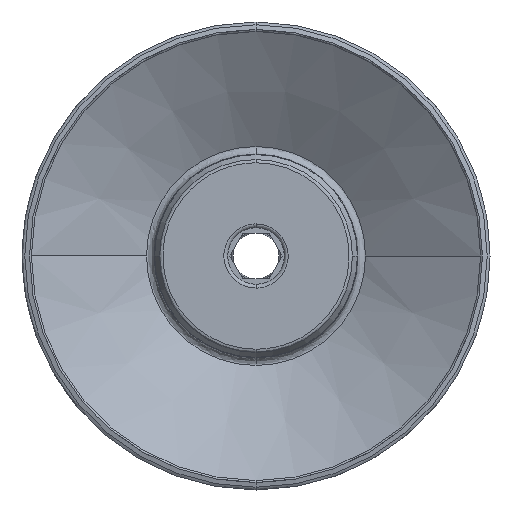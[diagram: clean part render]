
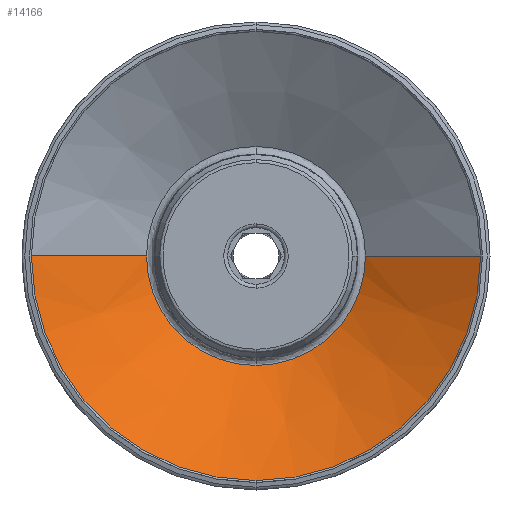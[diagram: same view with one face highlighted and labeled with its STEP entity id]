
A CAD part, front view. The second image highlights one B-rep face of the part: STEP entity #14166.
In plain terms, the highlighted conical face has half-angle 58.6 degrees and reference radius 29.75 mm.
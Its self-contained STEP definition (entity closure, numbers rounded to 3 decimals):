
#180 = CARTESIAN_POINT ( 'NONE',  ( 0., -21.203, -14.5 ) ) ;
#236 = DIRECTION ( 'NONE',  ( 0., -1., 0. ) ) ;
#468 = CARTESIAN_POINT ( 'NONE',  ( 0., -30.511, 0. ) ) ;
#531 = CARTESIAN_POINT ( 'NONE',  ( 0., -30.511, 0. ) ) ;
#625 = ORIENTED_EDGE ( 'NONE', *, *, #7807, .F. ) ;
#1032 = EDGE_CURVE ( 'NONE', #17376, #6232, #16881, .T. ) ;
#1363 = DIRECTION ( 'NONE',  ( 0., 0., -1. ) ) ;
#1377 = CARTESIAN_POINT ( 'NONE',  ( 29.75, -30.511, 0. ) ) ;
#1409 = VERTEX_POINT ( 'NONE', #8366 ) ;
#1876 = ORIENTED_EDGE ( 'NONE', *, *, #1032, .F. ) ;
#1959 = LINE ( 'NONE', #1377, #15109 ) ;
#1966 = DIRECTION ( 'NONE',  ( 0., 0., -1. ) ) ;
#2343 = AXIS2_PLACEMENT_3D ( 'NONE', #468, #14902, #7149 ) ;
#2782 = EDGE_CURVE ( 'NONE', #12459, #11070, #1959, .T. ) ;
#2820 = DIRECTION ( 'NONE',  ( 0.854, -0.521, 0. ) ) ;
#3403 = DIRECTION ( 'NONE',  ( -0.854, -0.521, 0. ) ) ;
#4161 = ORIENTED_EDGE ( 'NONE', *, *, #4405, .T. ) ;
#4352 = ORIENTED_EDGE ( 'NONE', *, *, #6575, .F. ) ;
#4405 = EDGE_CURVE ( 'NONE', #1409, #6232, #14876, .T. ) ;
#4591 = VECTOR ( 'NONE', #3403, 1000. ) ;
#4881 = CARTESIAN_POINT ( 'NONE',  ( -29.75, -30.511, 0. ) ) ;
#5146 = AXIS2_PLACEMENT_3D ( 'NONE', #14512, #6512, #15892 ) ;
#5416 = ORIENTED_EDGE ( 'NONE', *, *, #2782, .F. ) ;
#6232 = VERTEX_POINT ( 'NONE', #13540 ) ;
#6512 = DIRECTION ( 'NONE',  ( 0., -1., 0. ) ) ;
#6575 = EDGE_CURVE ( 'NONE', #11070, #17376, #15674, .T. ) ;
#7004 = AXIS2_PLACEMENT_3D ( 'NONE', #7174, #236, #15669 ) ;
#7149 = DIRECTION ( 'NONE',  ( 0., 0., -1. ) ) ;
#7174 = CARTESIAN_POINT ( 'NONE',  ( 0., -30.511, 0. ) ) ;
#7807 = EDGE_CURVE ( 'NONE', #8324, #12459, #7874, .T. ) ;
#7874 = CIRCLE ( 'NONE', #10486, 14.5 ) ;
#8324 = VERTEX_POINT ( 'NONE', #180 ) ;
#8366 = CARTESIAN_POINT ( 'NONE',  ( -14.5, -21.203, 0. ) ) ;
#9141 = CARTESIAN_POINT ( 'NONE',  ( 29.75, -30.511, 0. ) ) ;
#9584 = DIRECTION ( 'NONE',  ( 0., -1., 0. ) ) ;
#10037 = AXIS2_PLACEMENT_3D ( 'NONE', #531, #10134, #1966 ) ;
#10134 = DIRECTION ( 'NONE',  ( 0., 1., 0. ) ) ;
#10414 = CARTESIAN_POINT ( 'NONE',  ( 0., -30.511, -29.75 ) ) ;
#10486 = AXIS2_PLACEMENT_3D ( 'NONE', #17657, #9584, #1363 ) ;
#11032 = EDGE_CURVE ( 'NONE', #1409, #8324, #14989, .T. ) ;
#11070 = VERTEX_POINT ( 'NONE', #9141 ) ;
#12459 = VERTEX_POINT ( 'NONE', #17589 ) ;
#13445 = FACE_OUTER_BOUND ( 'NONE', #13569, .T. ) ;
#13540 = CARTESIAN_POINT ( 'NONE',  ( -29.75, -30.511, 0. ) ) ;
#13569 = EDGE_LOOP ( 'NONE', ( #15069, #4161, #1876, #4352, #5416, #625 ) ) ;
#14166 = ADVANCED_FACE ( 'NONE', ( #13445 ), #15355, .F. ) ;
#14512 = CARTESIAN_POINT ( 'NONE',  ( 0., -21.203, 0. ) ) ;
#14876 = LINE ( 'NONE', #4881, #4591 ) ;
#14902 = DIRECTION ( 'NONE',  ( 0., 1., 0. ) ) ;
#14989 = CIRCLE ( 'NONE', #5146, 14.5 ) ;
#15069 = ORIENTED_EDGE ( 'NONE', *, *, #11032, .F. ) ;
#15109 = VECTOR ( 'NONE', #2820, 1000. ) ;
#15355 = CONICAL_SURFACE ( 'NONE', #7004, 29.75, 1.023 ) ;
#15669 = DIRECTION ( 'NONE',  ( 1., 0., 0. ) ) ;
#15674 = CIRCLE ( 'NONE', #10037, 29.75 ) ;
#15892 = DIRECTION ( 'NONE',  ( 0., 0., -1. ) ) ;
#16881 = CIRCLE ( 'NONE', #2343, 29.75 ) ;
#17376 = VERTEX_POINT ( 'NONE', #10414 ) ;
#17589 = CARTESIAN_POINT ( 'NONE',  ( 14.5, -21.203, 0. ) ) ;
#17657 = CARTESIAN_POINT ( 'NONE',  ( 0., -21.203, 0. ) ) ;
